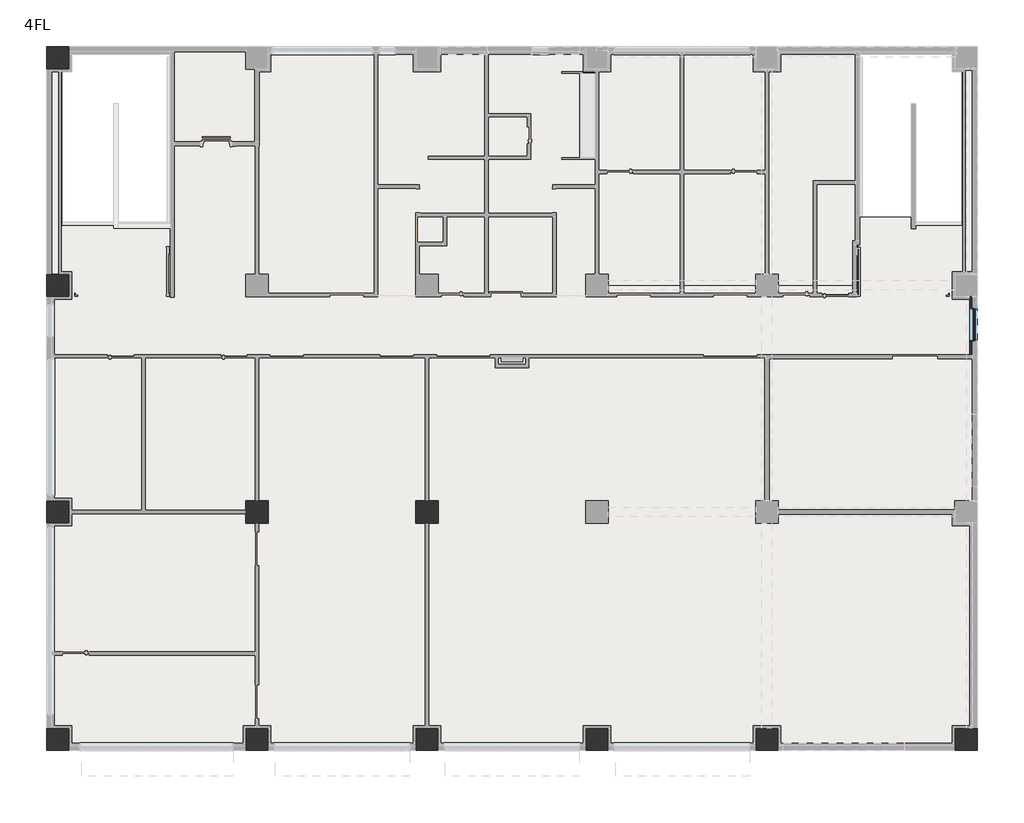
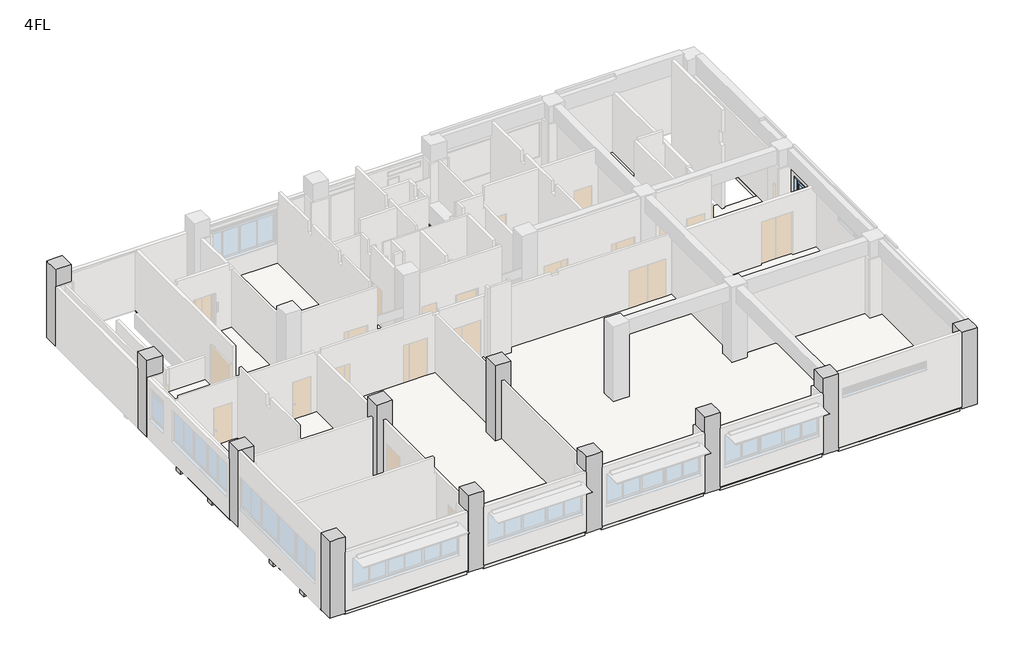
# One storey, part 4 of 5: 11 beams, 11 columns, 3 slabs, 1 wall, 1 window.
"""IFC4 building model written with IfcOpenShell, lengths in millimetres."""

from ifc_helpers import new_model, si_unit, frame, origin, place, context, project, spatial, polyline, outline, extrude, faceted_brep, transform, mapped, element, save
from components import aw6a_a2a86f3e

model = new_model("IFC4")

# Units and contexts
model_context = context("Model", 3, world=origin())
ifc_project = project(units=[si_unit("LENGTHUNIT", "METRE", prefix="MILLI")], contexts=[model_context])

# Site, building, storey
site = spatial("IfcSite", under=ifc_project)
building = spatial("IfcBuilding", under=site)
storey = spatial("IfcBuildingStorey", under=building, Name="4FL", Elevation=12300.0)

# Beams
placement = place(None, origin())
element("IfcBeam", 1, ObjectType="営_RC梁 : B2 350*750", at=placement, inside=storey, context=model_context, shape_type="SweptSolid", body=[
    extrude(outline(polyline([(19225.0, 2485.0), (19225.0, 2835.0), (24775.0, 2835.0), (24775.0, 2485.0), (19225.0, 2485.0)])), frame((0.0, 0.0, 11450.0), z_axis=(0.0, 0.0, 1.0), x_axis=(1.0, 0.0, 0.0)), (0.0, 0.0, 1.0), 600.0),
])
element("IfcBeam", 2, ObjectType="営_RC梁 : B2 350*750", at=placement, inside=storey, context=model_context, shape_type="SweptSolid", body=[
    extrude(outline(polyline([(13225.0, 5155.0), (13225.0, 5505.0), (18775.0, 5505.0), (18775.0, 5155.0), (13225.0, 5155.0)])), frame((0.0, 0.0, 11450.0), z_axis=(0.0, 0.0, 1.0), x_axis=(1.0, 0.0, 0.0)), (0.0, 0.0, 1.0), 600.0),
])
element("IfcBeam", 3, ObjectType="営_RC梁 : B2 350*750", at=placement, inside=storey, context=model_context, shape_type="SweptSolid", body=[
    extrude(outline(polyline([(13225.0, 2485.0), (13225.0, 2835.0), (18775.0, 2835.0), (18775.0, 2485.0), (13225.0, 2485.0)])), frame((0.0, 0.0, 11450.0), z_axis=(0.0, 0.0, 1.0), x_axis=(1.0, 0.0, 0.0)), (0.0, 0.0, 1.0), 600.0),
])
element("IfcBeam", 4, ObjectType="営_RC梁 : B1 350*750", at=placement, inside=storey, context=model_context, shape_type="Brep", body=[
    faceted_brep([(7225.0, 5155.0, 11450.0), (9940.0, 5155.0, 11450.0), (10060.0, 5155.0, 11450.0), (12775.0, 5155.0, 11450.0), (12775.0, 5155.0, 12050.0), (10060.0, 5155.0, 12050.0), (9940.0, 5155.0, 12050.0), (7225.0, 5155.0, 12050.0), (7225.0, 5505.0, 11450.0), (9940.0, 5505.0, 11450.0), (10060.0, 5505.0, 11450.0), (12775.0, 5505.0, 11450.0), (7225.0, 5505.0, 12050.0), (9940.0, 5505.0, 12050.0), (10060.0, 5505.0, 12050.0), (12775.0, 5505.0, 12050.0)], [[[0, 1, 2, 3, 4, 5, 6, 7]], [[0, 8, 9, 10, 11, 3, 2, 1]], [[11, 10, 9, 8, 12, 13, 14, 15]], [[8, 0, 7, 12]], [[3, 11, 15, 4]], [[7, 6, 5, 4, 15, 14, 13, 12]]]),
])
element("IfcBeam", 5, ObjectType="営_RC梁 : B1 350*750", at=placement, inside=storey, context=model_context, shape_type="Brep", body=[
    faceted_brep([(7225.0, 2485.0, 11450.0), (9940.0, 2485.0, 11450.0), (10060.0, 2485.0, 11450.0), (12775.0, 2485.0, 11450.0), (12775.0, 2485.0, 12050.0), (10060.0, 2485.0, 12050.0), (9940.0, 2485.0, 12050.0), (7225.0, 2485.0, 12050.0), (7225.0, 2835.0, 11450.0), (9940.0, 2835.0, 11450.0), (10060.0, 2835.0, 11450.0), (12775.0, 2835.0, 11450.0), (7225.0, 2835.0, 12050.0), (9940.0, 2835.0, 12050.0), (10060.0, 2835.0, 12050.0), (12775.0, 2835.0, 12050.0)], [[[0, 1, 2, 3, 4, 5, 6, 7]], [[0, 8, 9, 10, 11, 3, 2, 1]], [[11, 10, 9, 8, 12, 13, 14, 15]], [[8, 0, 7, 12]], [[3, 11, 15, 4]], [[7, 6, 5, 4, 15, 14, 13, 12]]]),
])
element("IfcBeam", 6, ObjectType="営_RC梁 : B1 350*750", at=placement, inside=storey, context=model_context, shape_type="SweptSolid", body=[
    extrude(outline(polyline([(-50.0, 5155.0), (-50.0, 5505.0), (6775.0, 5505.0), (6775.0, 5155.0), (-50.0, 5155.0)])), frame((0.0, 0.0, 11450.0), z_axis=(0.0, 0.0, 1.0), x_axis=(1.0, 0.0, 0.0)), (0.0, 0.0, 1.0), 600.0),
])
element("IfcBeam", 7, ObjectType="営_RC梁 : B1 350*750", at=placement, inside=storey, context=model_context, shape_type="SweptSolid", body=[
    extrude(outline(polyline([(-50.0, 2485.0), (-50.0, 2835.0), (6775.0, 2835.0), (6775.0, 2485.0), (-50.0, 2485.0)])), frame((0.0, 0.0, 11450.0), z_axis=(0.0, 0.0, 1.0), x_axis=(1.0, 0.0, 0.0)), (0.0, 0.0, 1.0), 600.0),
])
element("IfcBeam", 8, ObjectType="営_RC梁 : B1 350*750", at=placement, inside=storey, context=model_context, shape_type="SweptSolid", body=[
    extrude(outline(polyline([(-50.0, 10575.0), (-50.0, 10925.0), (6775.0, 10925.0), (6775.0, 10575.0), (-50.0, 10575.0)])), frame((0.0, 0.0, 11450.0), z_axis=(0.0, 0.0, 1.0), x_axis=(1.0, 0.0, 0.0)), (0.0, 0.0, 1.0), 600.0),
])
element("IfcBeam", 9, ObjectType="営_RC梁 : B1 350*750", at=placement, inside=storey, context=model_context, shape_type="SweptSolid", body=[
    extrude(outline(polyline([(13675.0, 11450.0), (13325.0, 11450.0), (13325.0, 12050.0), (13500.0, 12050.0), (13500.0, 12140.0), (13675.0, 12140.0), (13675.0, 11450.0)])), frame((-50.0, 0.0, 0.0), z_axis=(1.0, 0.0, 0.0), x_axis=(0.0, 1.0, 0.0)), (0.0, 0.0, 1.0), 6825.0),
])
element("IfcBeam", 10, ObjectType="営_RC梁 : B1 350*750", at=placement, inside=storey, context=model_context, shape_type="Brep", body=[
    faceted_brep([(7225.0, 10575.0, 11450.0), (9940.0, 10575.0, 11450.0), (10060.0, 10575.0, 11450.0), (12775.0, 10575.0, 11450.0), (12775.0, 10575.0, 12050.0), (10060.0, 10575.0, 12050.0), (9940.0, 10575.0, 12050.0), (7225.0, 10575.0, 12050.0), (7225.0, 10925.0, 11450.0), (9940.0, 10925.0, 11450.0), (10060.0, 10925.0, 11450.0), (12775.0, 10925.0, 11450.0), (7225.0, 10925.0, 12050.0), (9940.0, 10925.0, 12050.0), (10060.0, 10925.0, 12050.0), (12775.0, 10925.0, 12050.0)], [[[0, 1, 2, 3, 4, 5, 6, 7]], [[0, 8, 9, 10, 11, 3, 2, 1]], [[11, 10, 9, 8, 12, 13, 14, 15]], [[8, 0, 7, 12]], [[3, 11, 15, 4]], [[7, 6, 5, 4, 15, 14, 13, 12]]]),
])
element("IfcBeam", 11, ObjectType="営_RC梁 : B1 350*750", at=placement, inside=storey, context=model_context, shape_type="Brep", body=[
    faceted_brep([(7225.0, 13325.0, 11450.0), (9940.0, 13325.0, 11450.0), (10060.0, 13325.0, 11450.0), (12775.0, 13325.0, 11450.0), (12775.0, 13325.0, 12050.0), (10060.0, 13325.0, 12050.0), (9940.0, 13325.0, 12050.0), (7225.0, 13325.0, 12050.0), (7225.0, 13675.0, 11450.0), (12775.0, 13675.0, 11450.0), (7225.0, 13675.0, 12140.0), (12775.0, 13675.0, 12140.0), (7225.0, 13500.0, 12050.0), (7225.0, 13500.0, 12140.0), (12775.0, 13500.0, 12140.0), (12775.0, 13500.0, 12050.0)], [[[0, 1, 2, 3, 4, 5, 6, 7]], [[0, 8, 9, 3, 2, 1]], [[9, 8, 10, 11]], [[8, 0, 7, 12, 13, 10]], [[3, 9, 11, 14, 15, 4]], [[15, 12, 7, 6, 5, 4]], [[12, 15, 14, 13]], [[11, 10, 13, 14]]]),
])

# Columns
element("IfcColumn", 12, ObjectType="営_RC柱_角 : 750*750", at=placement, inside=storey, context=model_context, shape_type="Brep", body=[
    faceted_brep([(7395.0, 370.0, 12200.0), (7395.0, -250.0, 12200.0), (7395.0, -420.0, 12200.0), (6605.0, -420.0, 12200.0), (6605.0, -250.0, 12200.0), (6605.0, 370.0, 12200.0), (7395.0, 370.0, 16300.0), (7395.0, -250.0, 16300.0), (7395.0, -335.0, 16300.0), (7395.0, -420.0, 16300.0), (7395.0, -420.0, 15450.0), (7395.0, -420.0, 12300.0), (7395.0, 370.0, 12280.0), (7395.0, 370.0, 12290.0), (7395.0, 370.0, 16240.0), (7000.0, -420.0, 16300.0), (6605.0, -420.0, 16300.0), (6605.0, -420.0, 15450.0), (6605.0, -420.0, 12300.0), (6605.0, -335.0, 16300.0), (6605.0, -250.0, 16300.0), (6605.0, 370.0, 16300.0), (6605.0, 370.0, 16240.0), (6605.0, 370.0, 12290.0), (6605.0, 370.0, 12280.0)], [[[0, 1, 2, 3, 4, 5]], [[6, 7, 8, 9, 10, 11, 2, 1, 0, 12, 13, 14]], [[9, 15, 16, 17, 18, 3, 2, 11, 10]], [[16, 19, 20, 21, 22, 23, 24, 5, 4, 3, 18, 17]], [[21, 6, 14, 13, 12, 0, 5, 24, 23, 22]], [[6, 21, 20, 19, 16, 15, 9, 8, 7]]]),
])
element("IfcColumn", 13, ObjectType="営_RC柱_角 : 750*750", at=placement, inside=storey, context=model_context, shape_type="Brep", body=[
    faceted_brep([(13395.0, 370.0, 12200.0), (13395.0, -250.0, 12200.0), (13395.0, -420.0, 12200.0), (12605.0, -420.0, 12200.0), (12605.0, -250.0, 12200.0), (12605.0, 370.0, 12200.0), (13395.0, 370.0, 16300.0), (13395.0, -250.0, 16300.0), (13395.0, -335.0, 16300.0), (13395.0, -420.0, 16300.0), (13395.0, -420.0, 15450.0), (13395.0, -420.0, 12300.0), (13395.0, 370.0, 12280.0), (13395.0, 370.0, 12290.0), (13395.0, 370.0, 16240.0), (13000.0, -420.0, 16300.0), (12605.0, -420.0, 16300.0), (12605.0, -420.0, 15450.0), (12605.0, -420.0, 12300.0), (12605.0, -335.0, 16300.0), (12605.0, -250.0, 16300.0), (12605.0, 370.0, 16300.0), (12605.0, 370.0, 16240.0), (12605.0, 370.0, 12290.0), (12605.0, 370.0, 12280.0)], [[[0, 1, 2, 3, 4, 5]], [[6, 7, 8, 9, 10, 11, 2, 1, 0, 12, 13, 14]], [[9, 15, 16, 17, 18, 3, 2, 11, 10]], [[16, 19, 20, 21, 22, 23, 24, 5, 4, 3, 18, 17]], [[21, 6, 14, 13, 12, 0, 5, 24, 23, 22]], [[6, 21, 20, 19, 16, 15, 9, 8, 7]]]),
])
element("IfcColumn", 14, ObjectType="営_RC柱_角 : 750*750", at=placement, inside=storey, context=model_context, shape_type="Brep", body=[
    faceted_brep([(19395.0, 370.0, 12200.0), (19395.0, -250.0, 12200.0), (19395.0, -420.0, 12200.0), (18605.0, -420.0, 12200.0), (18605.0, -250.0, 12200.0), (18605.0, 370.0, 12200.0), (19395.0, 370.0, 16300.0), (19395.0, -250.0, 16300.0), (19395.0, -335.0, 16300.0), (19395.0, -420.0, 16300.0), (19395.0, -420.0, 15450.0), (19395.0, -420.0, 12300.0), (19395.0, 370.0, 12280.0), (19395.0, 370.0, 12290.0), (19395.0, 370.0, 16240.0), (19000.0, -420.0, 16300.0), (18605.0, -420.0, 16300.0), (18605.0, -420.0, 15450.0), (18605.0, -420.0, 12300.0), (18605.0, -335.0, 16300.0), (18605.0, -250.0, 16300.0), (18605.0, 370.0, 16300.0), (18605.0, 370.0, 16240.0), (18605.0, 370.0, 12290.0), (18605.0, 370.0, 12280.0)], [[[0, 1, 2, 3, 4, 5]], [[6, 7, 8, 9, 10, 11, 2, 1, 0, 12, 13, 14]], [[9, 15, 16, 17, 18, 3, 2, 11, 10]], [[16, 19, 20, 21, 22, 23, 24, 5, 4, 3, 18, 17]], [[21, 6, 14, 13, 12, 0, 5, 24, 23, 22]], [[6, 21, 20, 19, 16, 15, 9, 8, 7]]]),
])
element("IfcColumn", 15, ObjectType="営_RC柱_角 : 750*750", at=placement, inside=storey, context=model_context, shape_type="Brep", body=[
    faceted_brep([(25395.0, 370.0, 12200.0), (25395.0, -250.0, 12200.0), (25395.0, -420.0, 12200.0), (24605.0, -420.0, 12200.0), (24605.0, -250.0, 12200.0), (24605.0, 370.0, 12200.0), (25395.0, 370.0, 16300.0), (25395.0, -250.0, 16300.0), (25395.0, -420.0, 16300.0), (25395.0, -420.0, 12300.0), (25395.0, 370.0, 12280.0), (25395.0, 370.0, 12290.0), (25395.0, 370.0, 16240.0), (25000.0, -420.0, 16300.0), (24605.0, -420.0, 16300.0), (24605.0, -420.0, 15450.0), (24605.0, -420.0, 12300.0), (24605.0, -335.0, 16300.0), (24605.0, -250.0, 16300.0), (24605.0, 370.0, 16300.0), (24605.0, 370.0, 16240.0), (24605.0, 370.0, 12290.0), (24605.0, 370.0, 12280.0)], [[[0, 1, 2, 3, 4, 5]], [[6, 7, 8, 9, 2, 1, 0, 10, 11, 12]], [[8, 13, 14, 15, 16, 3, 2, 9]], [[14, 17, 18, 19, 20, 21, 22, 5, 4, 3, 16, 15]], [[19, 6, 12, 11, 10, 0, 5, 22, 21, 20]], [[6, 19, 18, 17, 14, 13, 8, 7]]]),
])
element("IfcColumn", 16, ObjectType="営_RC柱_角 : 750*750", at=placement, inside=storey, context=model_context, shape_type="Brep", body=[
    faceted_brep([(32420.0, 370.0, 12200.0), (32420.0, -420.0, 12200.0), (31630.0, -420.0, 12200.0), (31630.0, -250.0, 12200.0), (31630.0, 370.0, 12200.0), (32250.0, 370.0, 12200.0), (32420.0, 370.0, 16300.0), (32420.0, -250.0, 16300.0), (32420.0, -420.0, 16300.0), (31630.0, -420.0, 16300.0), (31630.0, -420.0, 12300.0), (31630.0, -250.0, 16300.0), (31630.0, 370.0, 16300.0), (31630.0, 370.0, 16240.0), (31630.0, 370.0, 12290.0), (31630.0, 370.0, 12280.0), (32250.0, 370.0, 16300.0)], [[[0, 1, 2, 3, 4, 5]], [[6, 7, 8, 1, 0]], [[8, 9, 10, 2, 1]], [[9, 11, 12, 13, 14, 15, 4, 3, 2, 10]], [[12, 16, 6, 0, 5, 4, 15, 14, 13]], [[6, 16, 12, 11, 9, 8, 7]]]),
])
element("IfcColumn", 17, ObjectType="営_RC柱_角 : 750*750", at=placement, inside=storey, context=model_context, shape_type="Brep", body=[
    faceted_brep([(370.0, 370.0, 12200.0), (370.0, -250.0, 12200.0), (370.0, -420.0, 12200.0), (-420.0, -420.0, 12200.0), (-420.0, 370.0, 12200.0), (-250.0, 370.0, 12200.0), (370.0, 370.0, 16300.0), (370.0, -250.0, 16300.0), (370.0, -335.0, 16300.0), (370.0, -420.0, 16300.0), (370.0, -420.0, 15450.0), (370.0, -420.0, 12300.0), (370.0, 370.0, 12280.0), (370.0, 370.0, 12290.0), (370.0, 370.0, 16240.0), (0.0, -420.0, 16300.0), (-250.0, -420.0, 16300.0), (-420.0, -420.0, 16300.0), (-420.0, 370.0, 16300.0), (-250.0, 370.0, 16300.0)], [[[0, 1, 2, 3, 4, 5]], [[6, 7, 8, 9, 10, 11, 2, 1, 0, 12, 13, 14]], [[9, 15, 16, 17, 3, 2, 11, 10]], [[17, 18, 4, 3]], [[18, 19, 6, 14, 13, 12, 0, 5, 4]], [[6, 19, 18, 17, 16, 15, 9, 8, 7]]]),
])
element("IfcColumn", 18, ObjectType="営_RC柱_角 : 750*750", at=placement, inside=storey, context=model_context, shape_type="Brep", body=[
    faceted_brep([(7395.0, 8395.0, 12200.0), (7395.0, 7605.0, 12200.0), (6605.0, 7605.0, 12200.0), (6605.0, 8395.0, 12200.0), (7395.0, 8395.0, 16300.0), (7395.0, 7605.0, 16300.0), (7395.0, 7605.0, 16240.0), (7395.0, 7605.0, 12290.0), (7395.0, 7605.0, 12280.0), (7395.0, 8395.0, 12280.0), (7395.0, 8395.0, 12290.0), (7395.0, 8395.0, 16240.0), (6605.0, 7605.0, 16300.0), (6605.0, 7605.0, 16240.0), (6605.0, 7605.0, 12290.0), (6605.0, 7605.0, 12280.0), (6605.0, 8395.0, 16300.0), (6605.0, 8395.0, 16240.0), (6605.0, 8395.0, 12290.0), (6605.0, 8395.0, 12280.0)], [[[0, 1, 2, 3]], [[4, 5, 6, 7, 8, 1, 0, 9, 10, 11]], [[5, 12, 13, 14, 15, 2, 1, 8, 7, 6]], [[12, 16, 17, 18, 19, 3, 2, 15, 14, 13]], [[16, 4, 11, 10, 9, 0, 3, 19, 18, 17]], [[4, 16, 12, 5]]]),
])
element("IfcColumn", 19, ObjectType="営_RC柱_角 : 750*750", at=placement, inside=storey, context=model_context, shape_type="Brep", body=[
    faceted_brep([(13395.0, 8395.0, 12200.0), (13395.0, 7605.0, 12200.0), (12605.0, 7605.0, 12200.0), (12605.0, 8395.0, 12200.0), (13395.0, 8395.0, 16300.0), (13395.0, 7605.0, 16300.0), (13395.0, 7605.0, 16240.0), (13395.0, 7605.0, 12290.0), (13395.0, 7605.0, 12280.0), (13395.0, 8395.0, 12280.0), (13395.0, 8395.0, 12290.0), (13395.0, 8395.0, 16240.0), (12605.0, 7605.0, 16300.0), (12605.0, 7605.0, 16240.0), (12605.0, 7605.0, 12290.0), (12605.0, 7605.0, 12280.0), (12605.0, 8395.0, 16300.0), (12605.0, 8395.0, 16240.0), (12605.0, 8395.0, 12290.0), (12605.0, 8395.0, 12280.0)], [[[0, 1, 2, 3]], [[4, 5, 6, 7, 8, 1, 0, 9, 10, 11]], [[5, 12, 13, 14, 15, 2, 1, 8, 7, 6]], [[12, 16, 17, 18, 19, 3, 2, 15, 14, 13]], [[16, 4, 11, 10, 9, 0, 3, 19, 18, 17]], [[4, 16, 12, 5]]]),
])
element("IfcColumn", 20, ObjectType="営_RC柱_角 : 750*750", at=placement, inside=storey, context=model_context, shape_type="Brep", body=[
    faceted_brep([(370.0, 8395.0, 12200.0), (370.0, 7605.0, 12200.0), (-250.0, 7605.0, 12200.0), (-420.0, 7605.0, 12200.0), (-420.0, 8395.0, 12200.0), (-250.0, 8395.0, 12200.0), (370.0, 8395.0, 16300.0), (370.0, 7605.0, 16300.0), (370.0, 7605.0, 16240.0), (370.0, 7605.0, 12290.0), (370.0, 7605.0, 12280.0), (370.0, 8395.0, 12280.0), (370.0, 8395.0, 12290.0), (370.0, 8395.0, 16240.0), (-250.0, 7605.0, 16300.0), (-420.0, 7605.0, 16300.0), (-420.0, 8000.0, 16300.0), (-420.0, 8395.0, 16300.0), (-420.0, 8395.0, 15400.0), (-325.0, 8395.0, 16300.0), (-250.0, 8395.0, 16300.0)], [[[0, 1, 2, 3, 4, 5]], [[6, 7, 8, 9, 10, 1, 0, 11, 12, 13]], [[7, 14, 15, 3, 2, 1, 10, 9, 8]], [[15, 16, 17, 18, 4, 3]], [[17, 19, 20, 6, 13, 12, 11, 0, 5, 4, 18]], [[6, 20, 19, 17, 16, 15, 14, 7]]]),
])
element("IfcColumn", 21, ObjectType="営_RC柱_角 : 750*750", at=placement, inside=storey, context=model_context, shape_type="Brep", body=[
    faceted_brep([(370.0, 16395.0, 12200.0), (370.0, 15605.0, 12200.0), (-250.0, 15605.0, 12200.0), (-325.0, 15605.0, 12200.0), (-420.0, 15605.0, 12200.0), (-420.0, 16395.0, 12200.0), (-325.0, 16395.0, 12200.0), (-250.0, 16395.0, 12200.0), (370.0, 16395.0, 16300.0), (370.0, 15605.0, 16300.0), (370.0, 15605.0, 16240.0), (370.0, 15605.0, 12290.0), (370.0, 16395.0, 12290.0), (370.0, 16395.0, 16240.0), (-250.0, 15605.0, 16300.0), (-325.0, 15605.0, 16300.0), (-420.0, 15605.0, 16300.0), (-420.0, 15605.0, 15400.0), (-420.0, 16000.0, 16300.0), (-420.0, 16395.0, 16300.0), (-420.0, 16395.0, 15400.0), (-325.0, 16395.0, 16300.0), (-250.0, 16395.0, 16300.0)], [[[0, 1, 2, 3, 4, 5, 6, 7]], [[8, 9, 10, 11, 1, 0, 12, 13]], [[9, 14, 15, 16, 17, 4, 3, 2, 1, 11, 10]], [[16, 18, 19, 20, 5, 4, 17]], [[19, 21, 22, 8, 13, 12, 0, 7, 6, 5, 20]], [[8, 22, 21, 19, 18, 16, 15, 14, 9]]]),
])
element("IfcColumn", 22, ObjectType="営_RC柱_角 : 750*750", at=placement, inside=storey, context=model_context, shape_type="Brep", body=[
    faceted_brep([(370.0, 24420.0, 12200.0), (370.0, 24250.0, 12200.0), (370.0, 23630.0, 12200.0), (-250.0, 23630.0, 12200.0), (-420.0, 23630.0, 12200.0), (-420.0, 24420.0, 12200.0), (370.0, 24420.0, 16300.0), (370.0, 24290.0, 16300.0), (370.0, 23630.0, 16300.0), (370.0, 23630.0, 16240.0), (370.0, 24420.0, 15450.0), (-250.0, 23630.0, 16300.0), (-325.0, 23630.0, 16300.0), (-420.0, 23630.0, 16300.0), (-420.0, 23630.0, 15400.0), (-420.0, 24000.0, 16300.0), (-420.0, 24250.0, 16300.0), (-420.0, 24420.0, 16300.0), (0.0, 24420.0, 16300.0)], [[[0, 1, 2, 3, 4, 5]], [[6, 7, 8, 9, 2, 1, 0, 10]], [[8, 11, 12, 13, 14, 4, 3, 2, 9]], [[13, 15, 16, 17, 5, 4, 14]], [[17, 18, 6, 10, 0, 5]], [[6, 18, 17, 16, 15, 13, 12, 11, 8, 7]]]),
])

# Slabs
element("IfcSlab", 23, ObjectType="(内床)仕上げ", at=placement, inside=storey, context=model_context, shape_type="SweptSolid", body=[
    extrude(outline(polyline([(-250.0, 13500.0), (25000.0, 13500.0), (25000.0, 8395.0), (24605.0, 8395.0), (24605.0, 7605.0), (25395.0, 7605.0), (25395.0, 8000.0), (31630.0, 8000.0), (31630.0, 7605.0), (32250.0, 7605.0), (32250.0, 370.0), (31630.0, 370.0), (31630.0, -250.0), (25395.0, -250.0), (25395.0, 370.0), (24605.0, 370.0), (24605.0, -250.0), (19395.0, -250.0), (19395.0, 370.0), (18605.0, 370.0), (18605.0, -250.0), (13395.0, -250.0), (13395.0, 370.0), (12605.0, 370.0), (12605.0, -250.0), (7395.0, -250.0), (7395.0, 370.0), (6605.0, 370.0), (6605.0, -250.0), (370.0, -250.0), (370.0, 370.0), (-250.0, 370.0), (-250.0, 7605.0), (370.0, 7605.0), (370.0, 8395.0), (-250.0, 8395.0), (-250.0, 13500.0)]), holes=[polyline([(7395.0, 7605.0), (7395.0, 8395.0), (6605.0, 8395.0), (6605.0, 7605.0), (7395.0, 7605.0)]), polyline([(13395.0, 7605.0), (13395.0, 8395.0), (12605.0, 8395.0), (12605.0, 7605.0), (13395.0, 7605.0)]), polyline([(19395.0, 7605.0), (19395.0, 8395.0), (18605.0, 8395.0), (18605.0, 7605.0), (19395.0, 7605.0)])]), frame((0.0, 0.0, 12280.0), z_axis=(0.0, 0.0, 1.0), x_axis=(1.0, 0.0, 0.0)), (0.0, 0.0, 1.0), 10.0),
    extrude(outline(polyline([(11200.0, 24250.0), (11200.0, 15665.0), (7395.0, 15665.0), (7395.0, 16395.0), (7000.0, 16395.0), (7000.0, 23630.0), (7395.0, 23630.0), (7395.0, 24250.0), (11200.0, 24250.0)])), frame((0.0, 0.0, 12280.0), z_axis=(0.0, 0.0, 1.0), x_axis=(1.0, 0.0, 0.0)), (0.0, 0.0, 1.0), 10.0),
    extrude(outline(polyline([(28200.0, 24250.0), (28200.0, 16000.0), (25395.0, 16000.0), (25395.0, 16395.0), (24605.0, 16395.0), (24605.0, 16000.0), (19395.0, 16000.0), (19395.0, 16395.0), (19000.0, 16395.0), (19000.0, 23630.0), (19395.0, 23630.0), (19395.0, 24250.0), (24605.0, 24250.0), (24605.0, 23630.0), (25395.0, 23630.0), (25395.0, 24250.0), (28200.0, 24250.0)])), frame((0.0, 0.0, 12280.0), z_axis=(0.0, 0.0, 1.0), x_axis=(1.0, 0.0, 0.0)), (0.0, 0.0, 1.0), 10.0),
])
element("IfcSlab", 24, ObjectType="(RC)150", at=placement, inside=storey, context=model_context, shape_type="Brep", body=[
    faceted_brep([(-335.0, 13500.0, 12050.0), (-50.0, 13500.0, 12050.0), (6775.0, 13500.0, 12050.0), (7225.0, 13500.0, 12050.0), (12775.0, 13500.0, 12050.0), (13225.0, 13500.0, 12050.0), (18775.0, 13500.0, 12050.0), (19225.0, 13500.0, 12050.0), (24775.0, 13500.0, 12050.0), (25000.0, 13500.0, 12050.0), (25000.0, 8420.0, 12050.0), (24775.0, 8420.0, 12050.0), (24580.0, 8420.0, 12050.0), (24580.0, 8175.0, 12050.0), (24580.0, 7825.0, 12050.0), (24580.0, 7580.0, 12050.0), (24775.0, 7580.0, 12050.0), (25225.0, 7580.0, 12050.0), (25420.0, 7580.0, 12050.0), (25420.0, 7825.0, 12050.0), (25420.0, 8000.0, 12050.0), (31580.0, 8000.0, 12050.0), (31580.0, 7825.0, 12050.0), (31580.0, 7580.0, 12050.0), (32050.0, 7580.0, 12050.0), (32325.0, 7580.0, 12050.0), (32325.0, 420.0, 12050.0), (32050.0, 420.0, 12050.0), (31580.0, 420.0, 12050.0), (31580.0, -50.0, 12050.0), (31580.0, -325.0, 12050.0), (25420.0, -325.0, 12050.0), (25420.0, -50.0, 12050.0), (25420.0, 420.0, 12050.0), (25225.0, 420.0, 12050.0), (24775.0, 420.0, 12050.0), (24580.0, 420.0, 12050.0), (24580.0, -50.0, 12050.0), (24580.0, -325.0, 12050.0), (19420.0, -325.0, 12050.0), (19420.0, -50.0, 12050.0), (19420.0, 420.0, 12050.0), (19225.0, 420.0, 12050.0), (18775.0, 420.0, 12050.0), (18580.0, 420.0, 12050.0), (18580.0, -50.0, 12050.0), (18580.0, -325.0, 12050.0), (13420.0, -325.0, 12050.0), (13420.0, -50.0, 12050.0), (13420.0, 420.0, 12050.0), (13225.0, 420.0, 12050.0), (12775.0, 420.0, 12050.0), (12580.0, 420.0, 12050.0), (12580.0, -50.0, 12050.0), (12580.0, -325.0, 12050.0), (7420.0, -325.0, 12050.0), (7420.0, -50.0, 12050.0), (7420.0, 420.0, 12050.0), (7225.0, 420.0, 12050.0), (6775.0, 420.0, 12050.0), (6580.0, 420.0, 12050.0), (6580.0, -50.0, 12050.0), (6580.0, -325.0, 12050.0), (420.0, -325.0, 12050.0), (420.0, -50.0, 12050.0), (420.0, 420.0, 12050.0), (-50.0, 420.0, 12050.0), (-335.0, 420.0, 12050.0), (-335.0, 7580.0, 12050.0), (-50.0, 7580.0, 12050.0), (420.0, 7580.0, 12050.0), (420.0, 7825.0, 12050.0), (420.0, 8175.0, 12050.0), (420.0, 8420.0, 12050.0), (-50.0, 8420.0, 12050.0), (-335.0, 8420.0, 12050.0), (7420.0, 7580.0, 12050.0), (7420.0, 7825.0, 12050.0), (7420.0, 8175.0, 12050.0), (7420.0, 8420.0, 12050.0), (7225.0, 8420.0, 12050.0), (6775.0, 8420.0, 12050.0), (6580.0, 8420.0, 12050.0), (6580.0, 8175.0, 12050.0), (6580.0, 7825.0, 12050.0), (6580.0, 7580.0, 12050.0), (6775.0, 7580.0, 12050.0), (7225.0, 7580.0, 12050.0), (13420.0, 7580.0, 12050.0), (13420.0, 7825.0, 12050.0), (13420.0, 8175.0, 12050.0), (13420.0, 8420.0, 12050.0), (13225.0, 8420.0, 12050.0), (12775.0, 8420.0, 12050.0), (12580.0, 8420.0, 12050.0), (12580.0, 8175.0, 12050.0), (12580.0, 7825.0, 12050.0), (12580.0, 7580.0, 12050.0), (12775.0, 7580.0, 12050.0), (13225.0, 7580.0, 12050.0), (19420.0, 7580.0, 12050.0), (19420.0, 7825.0, 12050.0), (19420.0, 8175.0, 12050.0), (19420.0, 8420.0, 12050.0), (19225.0, 8420.0, 12050.0), (18775.0, 8420.0, 12050.0), (18580.0, 8420.0, 12050.0), (18580.0, 8175.0, 12050.0), (18580.0, 7825.0, 12050.0), (18580.0, 7580.0, 12050.0), (18775.0, 7580.0, 12050.0), (19225.0, 7580.0, 12050.0), (25000.0, 13500.0, 12200.0), (-325.0, 13500.0, 12200.0), (-335.0, 13500.0, 12200.0), (-335.0, 8420.0, 12200.0), (420.0, 8420.0, 12200.0), (420.0, 7580.0, 12200.0), (-335.0, 7580.0, 12200.0), (-335.0, 420.0, 12200.0), (420.0, 420.0, 12200.0), (420.0, -325.0, 12200.0), (6580.0, -325.0, 12200.0), (6580.0, 420.0, 12200.0), (7420.0, 420.0, 12200.0), (7420.0, -325.0, 12200.0), (12580.0, -325.0, 12200.0), (12580.0, 420.0, 12200.0), (13420.0, 420.0, 12200.0), (13420.0, -325.0, 12200.0), (18580.0, -325.0, 12200.0), (18580.0, 420.0, 12200.0), (19420.0, 420.0, 12200.0), (19420.0, -325.0, 12200.0), (24580.0, -325.0, 12200.0), (24580.0, 420.0, 12200.0), (25420.0, 420.0, 12200.0), (25420.0, -325.0, 12200.0), (31580.0, -325.0, 12200.0), (31580.0, 420.0, 12200.0), (32325.0, 420.0, 12200.0), (32325.0, 7580.0, 12200.0), (31580.0, 7580.0, 12200.0), (31580.0, 8000.0, 12200.0), (25420.0, 8000.0, 12200.0), (25420.0, 7580.0, 12200.0), (24580.0, 7580.0, 12200.0), (24580.0, 8420.0, 12200.0), (25000.0, 8420.0, 12200.0), (7420.0, 8420.0, 12200.0), (7420.0, 7580.0, 12200.0), (6580.0, 7580.0, 12200.0), (6580.0, 8420.0, 12200.0), (13420.0, 8420.0, 12200.0), (13420.0, 7580.0, 12200.0), (12580.0, 7580.0, 12200.0), (12580.0, 8420.0, 12200.0), (19420.0, 8420.0, 12200.0), (19420.0, 7580.0, 12200.0), (18580.0, 7580.0, 12200.0), (18580.0, 8420.0, 12200.0), (25000.0, 13500.0, 12140.0), (25000.0, 8420.0, 12140.0), (25420.0, 8000.0, 12140.0), (31580.0, 8000.0, 12140.0)], [[[0, 1, 2, 3, 4, 5, 6, 7, 8, 9, 10, 11, 12, 13, 14, 15, 16, 17, 18, 19, 20, 21, 22, 23, 24, 25, 26, 27, 28, 29, 30, 31, 32, 33, 34, 35, 36, 37, 38, 39, 40, 41, 42, 43, 44, 45, 46, 47, 48, 49, 50, 51, 52, 53, 54, 55, 56, 57, 58, 59, 60, 61, 62, 63, 64, 65, 66, 67, 68, 69, 70, 71, 72, 73, 74, 75], [76, 77, 78, 79, 80, 81, 82, 83, 84, 85, 86, 87], [88, 89, 90, 91, 92, 93, 94, 95, 96, 97, 98, 99], [100, 101, 102, 103, 104, 105, 106, 107, 108, 109, 110, 111]], [[112, 113, 114, 115, 116, 117, 118, 119, 120, 121, 122, 123, 124, 125, 126, 127, 128, 129, 130, 131, 132, 133, 134, 135, 136, 137, 138, 139, 140, 141, 142, 143, 144, 145, 146, 147, 148], [149, 150, 151, 152], [153, 154, 155, 156], [157, 158, 159, 160]], [[62, 122, 121, 63]], [[125, 55, 54, 126]], [[129, 47, 46, 130]], [[133, 39, 38, 134]], [[137, 31, 30, 138]], [[67, 119, 118, 68]], [[114, 0, 75, 115]], [[9, 8, 7, 6, 5, 4, 3, 2, 1, 0, 114, 113, 112, 161]], [[140, 26, 25, 141]], [[9, 161, 112, 148, 162, 10]], [[20, 163, 144, 143, 164, 21]], [[124, 57, 56, 55, 125]], [[60, 123, 122, 62, 61]], [[123, 60, 59, 58, 57, 124]], [[128, 49, 48, 47, 129]], [[52, 127, 126, 54, 53]], [[127, 52, 51, 50, 49, 128]], [[132, 41, 40, 39, 133]], [[44, 131, 130, 46, 45]], [[131, 44, 43, 42, 41, 132]], [[136, 33, 32, 31, 137]], [[36, 135, 134, 38, 37]], [[135, 36, 35, 34, 33, 136]], [[28, 139, 138, 30, 29]], [[139, 28, 27, 26, 140]], [[120, 65, 64, 63, 121]], [[65, 120, 119, 67, 66]], [[76, 150, 149, 79, 78, 77]], [[150, 76, 87, 86, 85, 151]], [[151, 85, 84, 83, 82, 152]], [[152, 82, 81, 80, 79, 149]], [[88, 154, 153, 91, 90, 89]], [[154, 88, 99, 98, 97, 155]], [[155, 97, 96, 95, 94, 156]], [[156, 94, 93, 92, 91, 153]], [[100, 158, 157, 103, 102, 101]], [[158, 100, 111, 110, 109, 159]], [[159, 109, 108, 107, 106, 160]], [[160, 106, 105, 104, 103, 157]], [[18, 145, 144, 163, 20, 19]], [[145, 18, 17, 16, 15, 146]], [[146, 15, 14, 13, 12, 147]], [[147, 12, 11, 10, 162, 148]], [[23, 142, 141, 25, 24]], [[142, 23, 22, 21, 164, 143]], [[70, 117, 116, 73, 72, 71]], [[117, 70, 69, 68, 118]], [[73, 116, 115, 75, 74]]]),
    faceted_brep([(28200.0, 24335.0, 12050.0), (28200.0, 24050.0, 12050.0), (28200.0, 16175.0, 12050.0), (28200.0, 15825.0, 12050.0), (28200.0, 15665.0, 12050.0), (25420.0, 15665.0, 12050.0), (25420.0, 15825.0, 12050.0), (25420.0, 16175.0, 12050.0), (25420.0, 16420.0, 12050.0), (25225.0, 16420.0, 12050.0), (25000.0, 16420.0, 12050.0), (25000.0, 23580.0, 12050.0), (25225.0, 23580.0, 12050.0), (25420.0, 23580.0, 12050.0), (25420.0, 24050.0, 12050.0), (25420.0, 24335.0, 12050.0), (28200.0, 15665.0, 12200.0), (28200.0, 18400.0, 12200.0), (28200.0, 24050.0, 12200.0), (28200.0, 24335.0, 12200.0), (25420.0, 24335.0, 12200.0), (25420.0, 23580.0, 12200.0), (25000.0, 23580.0, 12200.0), (25000.0, 16420.0, 12200.0), (25420.0, 16420.0, 12200.0), (25420.0, 15665.0, 12200.0), (28200.0, 15665.0, 12140.0), (25420.0, 15665.0, 12140.0), (25000.0, 16420.0, 12140.0), (25000.0, 23580.0, 12140.0)], [[[0, 1, 2, 3, 4, 5, 6, 7, 8, 9, 10, 11, 12, 13, 14, 15]], [[16, 17, 18, 19, 20, 21, 22, 23, 24, 25]], [[19, 0, 15, 20]], [[4, 3, 2, 1, 0, 19, 18, 17, 16, 26]], [[4, 26, 16, 25, 27, 5]], [[10, 28, 23, 22, 29, 11]], [[24, 8, 7, 6, 5, 27, 25]], [[8, 24, 23, 28, 10, 9]], [[13, 21, 20, 15, 14]], [[21, 13, 12, 11, 29, 22]]]),
])
element("IfcSlab", 25, ObjectType="(RC)150", at=placement, inside=storey, context=model_context, shape_type="Brep", body=[
    faceted_brep([(25000.0, 13500.0, 12140.0), (24775.0, 13500.0, 12140.0), (19225.0, 13500.0, 12140.0), (18775.0, 13500.0, 12140.0), (13225.0, 13500.0, 12140.0), (12775.0, 13500.0, 12140.0), (7225.0, 13500.0, 12140.0), (6775.0, 13500.0, 12140.0), (-50.0, 13500.0, 12140.0), (-325.0, 13500.0, 12140.0), (-325.0, 15580.0, 12140.0), (-50.0, 15580.0, 12140.0), (420.0, 15580.0, 12140.0), (420.0, 15825.0, 12140.0), (420.0, 16175.0, 12140.0), (420.0, 16420.0, 12140.0), (-50.0, 16420.0, 12140.0), (-325.0, 16420.0, 12140.0), (-325.0, 23580.0, 12140.0), (-50.0, 23580.0, 12140.0), (100.0, 23580.0, 12140.0), (100.0, 18225.0, 12140.0), (100.0, 18100.0, 12140.0), (3825.0, 18100.0, 12140.0), (4000.0, 18100.0, 12140.0), (4000.0, 24050.0, 12140.0), (4000.0, 24335.0, 12140.0), (6580.0, 24335.0, 12140.0), (6580.0, 24050.0, 12140.0), (6580.0, 23580.0, 12140.0), (6775.0, 23580.0, 12140.0), (7225.0, 23580.0, 12140.0), (7420.0, 23580.0, 12140.0), (7420.0, 24050.0, 12140.0), (7420.0, 24335.0, 12140.0), (12580.0, 24335.0, 12140.0), (12580.0, 24050.0, 12140.0), (12580.0, 23580.0, 12140.0), (12775.0, 23580.0, 12140.0), (13225.0, 23580.0, 12140.0), (13420.0, 23580.0, 12140.0), (13420.0, 24050.0, 12140.0), (13420.0, 24335.0, 12140.0), (18580.0, 24335.0, 12140.0), (18580.0, 24050.0, 12140.0), (18580.0, 23580.0, 12140.0), (18775.0, 23580.0, 12140.0), (19225.0, 23580.0, 12140.0), (19420.0, 23580.0, 12140.0), (19420.0, 24050.0, 12140.0), (19420.0, 24335.0, 12140.0), (24580.0, 24335.0, 12140.0), (24580.0, 24050.0, 12140.0), (24580.0, 23580.0, 12140.0), (24775.0, 23580.0, 12140.0), (25000.0, 23580.0, 12140.0), (25000.0, 16420.0, 12140.0), (24775.0, 16420.0, 12140.0), (24580.0, 16420.0, 12140.0), (24580.0, 16175.0, 12140.0), (24580.0, 15825.0, 12140.0), (24580.0, 15580.0, 12140.0), (24775.0, 15580.0, 12140.0), (25225.0, 15580.0, 12140.0), (25420.0, 15580.0, 12140.0), (25420.0, 15665.0, 12140.0), (28200.0, 15665.0, 12140.0), (28200.0, 15825.0, 12140.0), (28200.0, 16175.0, 12140.0), (28200.0, 18400.0, 12140.0), (28374.0, 18400.0, 12140.0), (30105.0, 18400.0, 12140.0), (30105.0, 18225.0, 12140.0), (30105.0, 18005.0, 12140.0), (30255.0, 18005.0, 12140.0), (30255.0, 18100.0, 12140.0), (31900.0, 18100.0, 12140.0), (31900.0, 18225.0, 12140.0), (31900.0, 23580.0, 12140.0), (32050.0, 23580.0, 12140.0), (32325.0, 23580.0, 12140.0), (32325.0, 16669.8819845, 12140.0), (32325.0, 16420.0, 12140.0), (32050.0, 16420.0, 12140.0), (31580.0, 16420.0, 12140.0), (31580.0, 16175.0, 12140.0), (31580.0, 15825.0, 12140.0), (31580.0, 15580.0, 12140.0), (32050.0, 15580.0, 12140.0), (32325.0, 15580.0, 12140.0), (32325.0, 8420.0, 12140.0), (32050.0, 8420.0, 12140.0), (31580.0, 8420.0, 12140.0), (31580.0, 8175.0, 12140.0), (31580.0, 8000.0, 12140.0), (25420.0, 8000.0, 12140.0), (25420.0, 8175.0, 12140.0), (25420.0, 8420.0, 12140.0), (25225.0, 8420.0, 12140.0), (25000.0, 8420.0, 12140.0), (7420.0, 15580.0, 12140.0), (7420.0, 15825.0, 12140.0), (7420.0, 16175.0, 12140.0), (7420.0, 16420.0, 12140.0), (7225.0, 16420.0, 12140.0), (6775.0, 16420.0, 12140.0), (6580.0, 16420.0, 12140.0), (6580.0, 16175.0, 12140.0), (6580.0, 15825.0, 12140.0), (6580.0, 15580.0, 12140.0), (6775.0, 15580.0, 12140.0), (7225.0, 15580.0, 12140.0), (13420.0, 15580.0, 12140.0), (13420.0, 15825.0, 12140.0), (13420.0, 16175.0, 12140.0), (13420.0, 16420.0, 12140.0), (13225.0, 16420.0, 12140.0), (12775.0, 16420.0, 12140.0), (12580.0, 16420.0, 12140.0), (12580.0, 16175.0, 12140.0), (12580.0, 15825.0, 12140.0), (12580.0, 15580.0, 12140.0), (12775.0, 15580.0, 12140.0), (13225.0, 15580.0, 12140.0), (19420.0, 15580.0, 12140.0), (19420.0, 15825.0, 12140.0), (19420.0, 16175.0, 12140.0), (19420.0, 16420.0, 12140.0), (19225.0, 16420.0, 12140.0), (18775.0, 16420.0, 12140.0), (18580.0, 16420.0, 12140.0), (18580.0, 16175.0, 12140.0), (18580.0, 15825.0, 12140.0), (18580.0, 15580.0, 12140.0), (18775.0, 15580.0, 12140.0), (19225.0, 15580.0, 12140.0), (-325.0, 13500.0, 12290.0), (25000.0, 13500.0, 12290.0), (25000.0, 8395.0, 12290.0), (25395.0, 8395.0, 12290.0), (25395.0, 7925.0, 12290.0), (31630.0, 7925.0, 12290.0), (31630.0, 8395.0, 12290.0), (32325.0, 8395.0, 12290.0), (32325.0, 15605.0, 12290.0), (31630.0, 15605.0, 12290.0), (31630.0, 16395.0, 12290.0), (32325.0, 16395.0, 12290.0), (32325.0, 16669.8819845, 12290.0), (32325.0, 23580.0, 12290.0), (31900.0, 23580.0, 12290.0), (31900.0, 18100.0, 12290.0), (30255.0, 18100.0, 12290.0), (30255.0, 18005.0, 12290.0), (30105.0, 18005.0, 12290.0), (30105.0, 18400.0, 12290.0), (28200.0, 18400.0, 12290.0), (28200.0, 15665.0, 12290.0), (25395.0, 15665.0, 12290.0), (25395.0, 15605.0, 12290.0), (24605.0, 15605.0, 12290.0), (24605.0, 16395.0, 12290.0), (25000.0, 16395.0, 12290.0), (25000.0, 23630.0, 12290.0), (24605.0, 23630.0, 12290.0), (24605.0, 24335.0, 12290.0), (19395.0, 24335.0, 12290.0), (19395.0, 23630.0, 12290.0), (18605.0, 23630.0, 12290.0), (18605.0, 24335.0, 12290.0), (13395.0, 24335.0, 12290.0), (13395.0, 23630.0, 12290.0), (12605.0, 23630.0, 12290.0), (12605.0, 24335.0, 12290.0), (7395.0, 24335.0, 12290.0), (7395.0, 23630.0, 12290.0), (6605.0, 23630.0, 12290.0), (6605.0, 24335.0, 12290.0), (4000.0, 24335.0, 12290.0), (4000.0, 18100.0, 12290.0), (100.0, 18100.0, 12290.0), (100.0, 23580.0, 12290.0), (-325.0, 23580.0, 12290.0), (-325.0, 16395.0, 12290.0), (370.0, 16395.0, 12290.0), (370.0, 15605.0, 12290.0), (-325.0, 15605.0, 12290.0), (7395.0, 16395.0, 12290.0), (7395.0, 15605.0, 12290.0), (6605.0, 15605.0, 12290.0), (6605.0, 16395.0, 12290.0), (13395.0, 16395.0, 12290.0), (13395.0, 15605.0, 12290.0), (12605.0, 15605.0, 12290.0), (12605.0, 16395.0, 12290.0), (19395.0, 16395.0, 12290.0), (19395.0, 15605.0, 12290.0), (18605.0, 15605.0, 12290.0), (18605.0, 16395.0, 12290.0), (32325.0, 16395.0, 12200.0), (32325.0, 16420.0, 12200.0), (32325.0, 8420.0, 12200.0), (32325.0, 15580.0, 12200.0), (32325.0, 15605.0, 12200.0), (32325.0, 8395.0, 12200.0), (25000.0, 13500.0, 12200.0), (-325.0, 13500.0, 12200.0), (32325.0, 23580.0, 12200.0), (4000.0, 24335.0, 12200.0), (6605.0, 24335.0, 12200.0), (6580.0, 24335.0, 12200.0), (7420.0, 24335.0, 12200.0), (7395.0, 24335.0, 12200.0), (12605.0, 24335.0, 12200.0), (12580.0, 24335.0, 12200.0), (13420.0, 24335.0, 12200.0), (13395.0, 24335.0, 12200.0), (18605.0, 24335.0, 12200.0), (18580.0, 24335.0, 12200.0), (19420.0, 24335.0, 12200.0), (19395.0, 24335.0, 12200.0), (24605.0, 24335.0, 12200.0), (24580.0, 24335.0, 12200.0), (-325.0, 15605.0, 12200.0), (-325.0, 15580.0, 12200.0), (-325.0, 23580.0, 12200.0), (-325.0, 16420.0, 12200.0), (-325.0, 16395.0, 12200.0), (25395.0, 7925.0, 12200.0), (31630.0, 7925.0, 12200.0), (25000.0, 8420.0, 12200.0), (25000.0, 8395.0, 12200.0), (100.0, 18100.0, 12200.0), (4000.0, 18100.0, 12200.0), (28200.0, 15665.0, 12200.0), (28200.0, 18400.0, 12200.0), (30105.0, 18005.0, 12200.0), (30255.0, 18005.0, 12200.0), (30255.0, 18100.0, 12200.0), (31900.0, 18100.0, 12200.0), (25420.0, 8420.0, 12200.0), (25420.0, 8000.0, 12200.0), (31580.0, 8000.0, 12200.0), (31580.0, 8420.0, 12200.0), (31630.0, 8395.0, 12200.0), (25395.0, 8395.0, 12200.0), (25000.0, 16420.0, 12200.0), (25000.0, 23580.0, 12200.0), (25000.0, 23630.0, 12200.0), (25000.0, 16395.0, 12200.0), (25420.0, 15665.0, 12200.0), (25395.0, 15665.0, 12200.0), (7420.0, 15580.0, 12200.0), (7420.0, 16420.0, 12200.0), (6580.0, 15580.0, 12200.0), (6580.0, 16420.0, 12200.0), (7395.0, 15605.0, 12200.0), (7395.0, 16395.0, 12200.0), (6605.0, 16395.0, 12200.0), (6605.0, 15605.0, 12200.0), (13420.0, 15580.0, 12200.0), (13420.0, 16420.0, 12200.0), (12580.0, 15580.0, 12200.0), (12580.0, 16420.0, 12200.0), (13395.0, 15605.0, 12200.0), (13395.0, 16395.0, 12200.0), (12605.0, 16395.0, 12200.0), (12605.0, 15605.0, 12200.0), (19420.0, 15580.0, 12200.0), (19420.0, 16420.0, 12200.0), (18580.0, 15580.0, 12200.0), (18580.0, 16420.0, 12200.0), (19395.0, 15605.0, 12200.0), (19395.0, 16395.0, 12200.0), (18605.0, 16395.0, 12200.0), (18605.0, 15605.0, 12200.0), (25420.0, 15580.0, 12200.0), (24580.0, 15580.0, 12200.0), (24580.0, 16420.0, 12200.0), (24605.0, 16395.0, 12200.0), (24605.0, 15605.0, 12200.0), (25395.0, 15605.0, 12200.0), (31580.0, 15580.0, 12200.0), (31580.0, 16420.0, 12200.0), (31630.0, 16395.0, 12200.0), (31630.0, 15605.0, 12200.0), (420.0, 15580.0, 12200.0), (420.0, 16420.0, 12200.0), (370.0, 15605.0, 12200.0), (370.0, 16395.0, 12200.0), (7420.0, 23580.0, 12200.0), (6580.0, 23580.0, 12200.0), (6605.0, 23630.0, 12200.0), (7395.0, 23630.0, 12200.0), (13420.0, 23580.0, 12200.0), (12580.0, 23580.0, 12200.0), (12605.0, 23630.0, 12200.0), (13395.0, 23630.0, 12200.0), (19420.0, 23580.0, 12200.0), (18580.0, 23580.0, 12200.0), (18605.0, 23630.0, 12200.0), (19395.0, 23630.0, 12200.0), (24580.0, 23580.0, 12200.0), (24605.0, 23630.0, 12200.0)], [[[0, 1, 2, 3, 4, 5, 6, 7, 8, 9, 10, 11, 12, 13, 14, 15, 16, 17, 18, 19, 20, 21, 22, 23, 24, 25, 26, 27, 28, 29, 30, 31, 32, 33, 34, 35, 36, 37, 38, 39, 40, 41, 42, 43, 44, 45, 46, 47, 48, 49, 50, 51, 52, 53, 54, 55, 56, 57, 58, 59, 60, 61, 62, 63, 64, 65, 66, 67, 68, 69, 70, 71, 72, 73, 74, 75, 76, 77, 78, 79, 80, 81, 82, 83, 84, 85, 86, 87, 88, 89, 90, 91, 92, 93, 94, 95, 96, 97, 98, 99], [100, 101, 102, 103, 104, 105, 106, 107, 108, 109, 110, 111], [112, 113, 114, 115, 116, 117, 118, 119, 120, 121, 122, 123], [124, 125, 126, 127, 128, 129, 130, 131, 132, 133, 134, 135]], [[136, 137, 138, 139, 140, 141, 142, 143, 144, 145, 146, 147, 148, 149, 150, 151, 152, 153, 154, 155, 156, 157, 158, 159, 160, 161, 162, 163, 164, 165, 166, 167, 168, 169, 170, 171, 172, 173, 174, 175, 176, 177, 178, 179, 180, 181, 182, 183, 184, 185, 186], [187, 188, 189, 190], [191, 192, 193, 194], [195, 196, 197, 198]], [[81, 148, 147, 199, 200, 82]], [[201, 90, 89, 202, 203, 144, 143, 204]], [[9, 8, 7, 6, 5, 4, 3, 2, 1, 0, 205, 137, 136, 206]], [[81, 80, 207, 149, 148]], [[26, 208, 178, 177, 209, 210, 27]], [[34, 211, 212, 174, 173, 213, 214, 35]], [[42, 215, 216, 170, 169, 217, 218, 43]], [[50, 219, 220, 166, 165, 221, 222, 51]], [[206, 136, 186, 223, 224, 10, 9]], [[182, 225, 18, 17, 226, 227, 183]], [[140, 228, 229, 141]], [[205, 0, 99, 230, 231, 138, 137]], [[20, 19, 18, 225, 182, 181]], [[22, 21, 20, 181, 180, 232]], [[24, 23, 22, 232, 180, 179, 233]], [[26, 25, 24, 233, 179, 178, 208]], [[69, 68, 67, 66, 234, 157, 156, 235]], [[71, 70, 69, 235, 156, 155]], [[73, 72, 71, 155, 154, 236]], [[74, 73, 236, 154, 153, 237]], [[75, 74, 237, 153, 152, 238]], [[76, 75, 238, 152, 151, 239]], [[78, 77, 76, 239, 151, 150]], [[80, 79, 78, 150, 149, 207]], [[240, 241, 242, 243, 201, 204, 244, 229, 228, 245, 231, 230]], [[241, 95, 94, 242]], [[246, 56, 55, 247, 248, 163, 162, 249]], [[234, 66, 65, 250, 251, 158, 157]], [[241, 240, 97, 96, 95]], [[97, 240, 230, 99, 98]], [[243, 242, 94, 93, 92]], [[243, 92, 91, 90, 201]], [[252, 253, 103, 102, 101, 100]], [[254, 252, 100, 111, 110, 109]], [[255, 254, 109, 108, 107, 106]], [[253, 255, 106, 105, 104, 103]], [[253, 252, 254, 255], [256, 257, 258, 259]], [[260, 261, 115, 114, 113, 112]], [[262, 260, 112, 123, 122, 121]], [[263, 262, 121, 120, 119, 118]], [[261, 263, 118, 117, 116, 115]], [[261, 260, 262, 263], [264, 265, 266, 267]], [[268, 269, 127, 126, 125, 124]], [[270, 268, 124, 135, 134, 133]], [[271, 270, 133, 132, 131, 130]], [[269, 271, 130, 129, 128, 127]], [[269, 268, 270, 271], [272, 273, 274, 275]], [[64, 276, 250, 65]], [[277, 276, 64, 63, 62, 61]], [[278, 277, 61, 60, 59, 58]], [[278, 58, 57, 56, 246]], [[276, 277, 278, 246, 249, 279, 280, 281, 251, 250]], [[87, 282, 202, 89, 88]], [[283, 282, 87, 86, 85, 84]], [[283, 84, 83, 82, 200]], [[282, 283, 200, 199, 284, 285, 203, 202]], [[286, 287, 15, 14, 13, 12]], [[286, 12, 11, 10, 224]], [[15, 287, 226, 17, 16]], [[287, 286, 224, 223, 288, 289, 227, 226]], [[32, 290, 211, 34, 33]], [[291, 290, 32, 31, 30, 29]], [[291, 29, 28, 27, 210]], [[290, 291, 210, 209, 292, 293, 212, 211]], [[40, 294, 215, 42, 41]], [[295, 294, 40, 39, 38, 37]], [[295, 37, 36, 35, 214]], [[294, 295, 214, 213, 296, 297, 216, 215]], [[48, 298, 219, 50, 49]], [[299, 298, 48, 47, 46, 45]], [[299, 45, 44, 43, 218]], [[298, 299, 218, 217, 300, 301, 220, 219]], [[53, 302, 247, 55, 54]], [[302, 53, 52, 51, 222]], [[247, 302, 222, 221, 303, 248]], [[139, 245, 228, 140]], [[245, 139, 138, 231]], [[244, 142, 141, 229]], [[142, 244, 204, 143]], [[256, 188, 187, 257]], [[188, 256, 259, 189]], [[189, 259, 258, 190]], [[190, 258, 257, 187]], [[264, 192, 191, 265]], [[192, 264, 267, 193]], [[193, 267, 266, 194]], [[194, 266, 265, 191]], [[272, 196, 195, 273]], [[196, 272, 275, 197]], [[197, 275, 274, 198]], [[198, 274, 273, 195]], [[281, 159, 158, 251]], [[159, 281, 280, 160]], [[160, 280, 279, 161]], [[161, 279, 249, 162]], [[285, 145, 144, 203]], [[145, 285, 284, 146]], [[146, 284, 199, 147]], [[288, 185, 184, 289]], [[185, 288, 223, 186]], [[289, 184, 183, 227]], [[293, 175, 174, 212]], [[175, 293, 292, 176]], [[176, 292, 209, 177]], [[297, 171, 170, 216]], [[171, 297, 296, 172]], [[172, 296, 213, 173]], [[301, 167, 166, 220]], [[167, 301, 300, 168]], [[168, 300, 217, 169]], [[303, 164, 163, 248]], [[164, 303, 221, 165]]]),
])

# Wall
element("IfcWall", 26, ObjectType="(内壁)W5", at=placement, inside=storey, context=model_context, shape_type="Brep", body=[
    faceted_brep([(32250.0, 13555.0, 12300.0), (32250.0, 15605.0, 12300.0), (32250.0, 15605.0, 15400.0), (32250.0, 13555.0, 15400.0), (32250.0, 14027.5, 13365.0), (32250.0, 14027.5, 15020.0), (32250.0, 15207.5, 15020.0), (32250.0, 15207.5, 13365.0), (32160.0, 15605.0, 12300.0), (32160.0, 15515.0, 12300.0), (32160.0, 13555.0, 12300.0), (32160.0, 13555.0, 15400.0), (32160.0, 15515.0, 15400.0), (32160.0, 15605.0, 15400.0), (32160.0, 14027.5, 15020.0), (32160.0, 14027.5, 13365.0), (32160.0, 15207.5, 13365.0), (32160.0, 15207.5, 15020.0)], [[[0, 1, 2, 3], [4, 5, 6, 7]], [[8, 9, 10, 11, 12, 13], [14, 15, 16, 17]], [[1, 0, 10, 9, 8]], [[3, 2, 13, 12, 11]], [[2, 1, 8, 13]], [[0, 3, 11, 10]], [[14, 5, 4, 15]], [[16, 7, 6, 17]], [[15, 4, 7, 16]], [[5, 14, 17, 6]]]),
])

# Window
aw6a_shape = aw6a_a2a86f3e(model_context)
element("IfcWindow", 27, ObjectType="営_段窓_縦辷出し/ガラリ : AW6a", at=placement, inside=storey, context=model_context, shape_type="MappedRepresentation", body=[
    mapped(aw6a_shape, transform((32335.0, 14617.5, 12300.0), x_axis=(0.0, -1.0, 0.0), y_axis=(1.0, 0.0, 0.0), z_axis=(0.0, 0.0, 1.0))),
])

save(model, "model.ifc")
